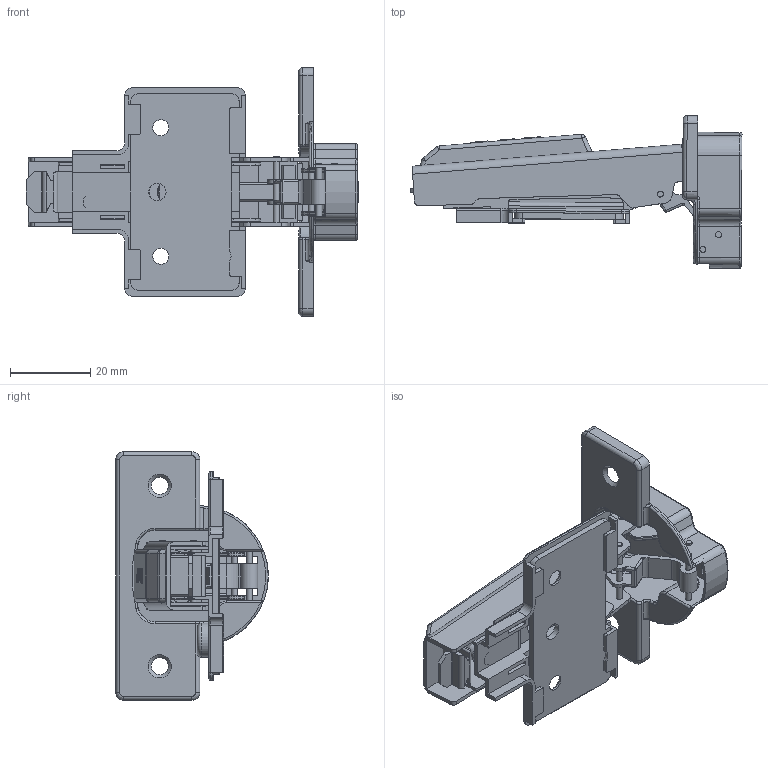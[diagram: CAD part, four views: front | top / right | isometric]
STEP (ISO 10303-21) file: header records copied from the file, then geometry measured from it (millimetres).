
FILE_DESCRIPTION(/* description */ (''),/* implementation_level */ '2;1');
FILE_NAME(/* name */ 'D:\$Workingspace\Designs\Katalog\Cadsoft\GTV Zawiasy\ZM-DCHC07(8)(9)-3DBEO\ZM-DCHC09-3DBEO.stp',/* time_stamp */ '2018-10-19T11:27:39+02:00',/* author */ ('tomaszw'),/* organization */ (''),/* preprocessor_version */ 'ST-DEVELOPER v17',/* originating_system */ 'Autodesk Inventor 2019',/* authorisation */ '');
FILE_SCHEMA (('AUTOMOTIVE_DESIGN { 1 0 10303 214 3 1 1 }'));
Length unit declared in the file: millimetre
Products named in the file (14): ZM-DCHC09BEO; ZM-DCHC0-P-H0; ZM-DCHC0_2; ZM-DCHC09; ZM-DCHC0_1; ZM-DCHC0_4-FI35_45_w; ZM-DCHC0_3; ZM-DCHC0_Pin2; ZM-DCHC0_Pin1; Wkret4x6; ZM-DCHC0_5; ZM-DCHC0_6; ZM-DCHC0_7; ZM-ECHC0-NR9
Assembly tree (15 placements, depth 2):
  ZM-DCHC09BEO
    ZM-DCHC0-P-H0
    ZM-DCHC0_2
    ZM-DCHC09
    ZM-DCHC0_1
    ZM-DCHC0_4-FI35_45_w
    ZM-DCHC0_3
    ZM-DCHC0_Pin2  x2
    ZM-DCHC0_Pin1  x2
    Wkret4x6
    ZM-DCHC0_5
    ZM-DCHC0_6
    ZM-DCHC0_7
    ZM-ECHC0-NR9
Bounding box: 82.76 x 38.09 x 62 mm (x, y, z)
Volume: 12997.3 mm3; surface area: 28150.5 mm2
Topology: 17 solids, 18 shells, 886 faces, 2261 edges, 1419 vertices
Faces by surface type: plane 394, cylinder 328, torus 81, bspline 53, sphere 16, cone 14
Full cylindrical faces by diameter (mm): 1 x1, 1.5 x19, 3.5 x1, 4 x3, 4.3 x1, 4.5 x1, 5 x1, 6 x1, 6.5 x1, 7 x1, 8 x1, 8.5 x1
Entity records: 29435 total; most frequent: CARTESIAN_POINT 6353, DIRECTION 4635, ORIENTED_EDGE 4506, EDGE_CURVE 2253, AXIS2_PLACEMENT_3D 1649, VERTEX_POINT 1415, LINE 1337, VECTOR 1337
